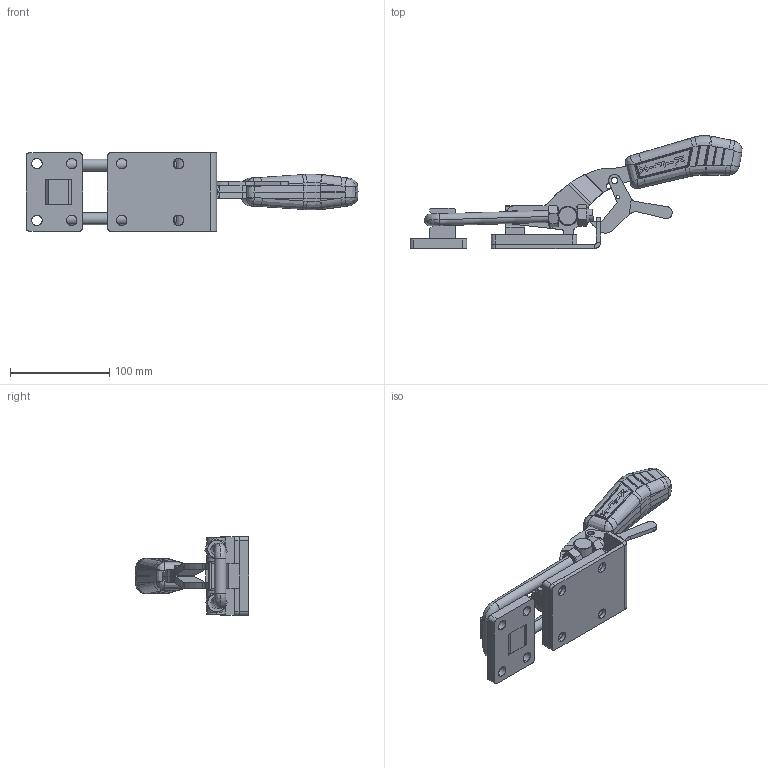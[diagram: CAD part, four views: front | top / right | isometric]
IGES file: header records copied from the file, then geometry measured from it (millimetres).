
Start section: SolidWorks IGES file using analytic representation for surfaces
Global section: file name: C:\Projetos\Grampos\KF-385\KF-385 TR\KF-385 TR.IGS; native system: SolidWorks 2018; preprocessor: SolidWorks 2018; author: Ricardo; date: 180619.111717; units: millimetre
Bounding box: 334.66 x 113.91 x 79.5 mm (x, y, z)
Surface area: 138614.3 mm2 (no closed solid volume)
Topology: 0 solids, 0 shells, 742 faces, 8837 edges, 8821 vertices
Faces by surface type: bspline 420, revolution 322
